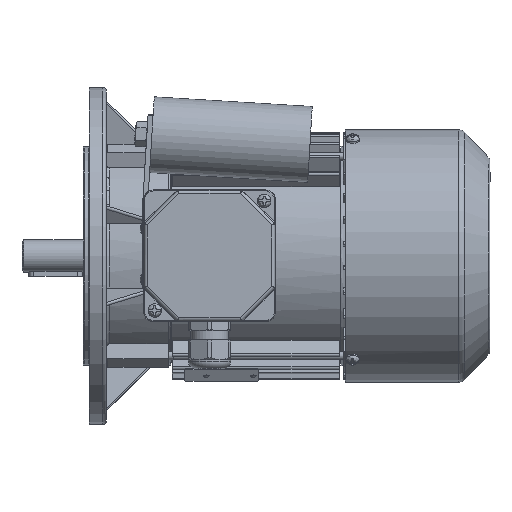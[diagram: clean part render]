
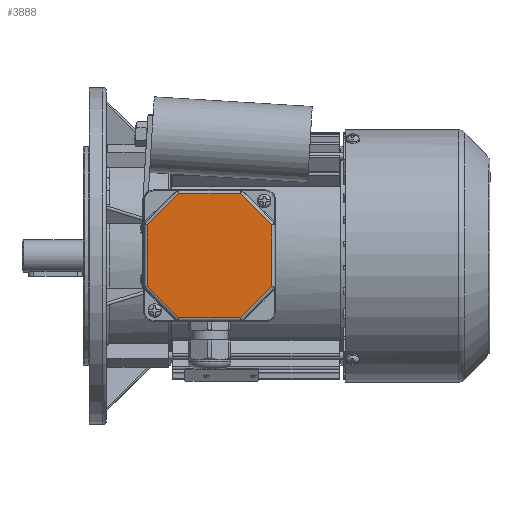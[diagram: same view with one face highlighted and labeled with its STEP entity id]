
A CAD part, top view. The second image highlights one B-rep face of the part: STEP entity #3888.
In plain terms, the highlighted planar face has unit normal (0, 0, 1).
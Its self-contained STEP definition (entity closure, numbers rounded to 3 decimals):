
#3888 = ADVANCED_FACE( '', ( #9288 ), #9289, .T. );
#9288 = FACE_OUTER_BOUND( '', #21138, .T. );
#9289 = PLANE( '', #21139 );
#21138 = EDGE_LOOP( '', ( #43950, #43951, #43952, #43953, #43954, #43955, #43956, #43957 ) );
#21139 = AXIS2_PLACEMENT_3D( '', #43958, #43959, #43960 );
#43950 = ORIENTED_EDGE( '', *, *, #64317, .T. );
#43951 = ORIENTED_EDGE( '', *, *, #64318, .T. );
#43952 = ORIENTED_EDGE( '', *, *, #64319, .T. );
#43953 = ORIENTED_EDGE( '', *, *, #63527, .T. );
#43954 = ORIENTED_EDGE( '', *, *, #64320, .T. );
#43955 = ORIENTED_EDGE( '', *, *, #64321, .T. );
#43956 = ORIENTED_EDGE( '', *, *, #64322, .T. );
#43957 = ORIENTED_EDGE( '', *, *, #64323, .T. );
#43958 = CARTESIAN_POINT( '', ( -39., 39., 12. ) );
#43959 = DIRECTION( '', ( 0., 0., 1. ) );
#43960 = DIRECTION( '', ( 1., 0., 0. ) );
#63527 = EDGE_CURVE( '', #73063, #73064, #73065, .T. );
#64317 = EDGE_CURVE( '', #72914, #72036, #74421, .F. );
#64318 = EDGE_CURVE( '', #72036, #72395, #74422, .T. );
#64319 = EDGE_CURVE( '', #72395, #73063, #74423, .F. );
#64320 = EDGE_CURVE( '', #73064, #74424, #74425, .F. );
#64321 = EDGE_CURVE( '', #74424, #74426, #74427, .T. );
#64322 = EDGE_CURVE( '', #74426, #71897, #74428, .F. );
#64323 = EDGE_CURVE( '', #71897, #72914, #74429, .T. );
#71897 = VERTEX_POINT( '', #85542 );
#72036 = VERTEX_POINT( '', #86036 );
#72395 = VERTEX_POINT( '', #87012 );
#72914 = VERTEX_POINT( '', #88843 );
#73063 = VERTEX_POINT( '', #89075 );
#73064 = VERTEX_POINT( '', #89076 );
#73065 = LINE( '', #89077, #89078 );
#74421 = LINE( '', #92783, #92784 );
#74422 = LINE( '', #92785, #92786 );
#74423 = LINE( '', #92787, #92788 );
#74424 = VERTEX_POINT( '', #92789 );
#74425 = LINE( '', #92790, #92791 );
#74426 = VERTEX_POINT( '', #92792 );
#74427 = LINE( '', #92793, #92794 );
#74428 = LINE( '', #92795, #92796 );
#74429 = LINE( '', #92797, #92798 );
#85542 = CARTESIAN_POINT( '', ( 18.255, -36.825, 12. ) );
#86036 = CARTESIAN_POINT( '', ( 36.825, 18.255, 12. ) );
#87012 = CARTESIAN_POINT( '', ( 18.255, 36.825, 12. ) );
#88843 = CARTESIAN_POINT( '', ( 36.825, -18.255, 12. ) );
#89075 = CARTESIAN_POINT( '', ( -18.255, 36.825, 12. ) );
#89076 = CARTESIAN_POINT( '', ( -36.825, 18.255, 12. ) );
#89077 = CARTESIAN_POINT( '', ( -37.401, 17.679, 12. ) );
#89078 = VECTOR( '', #119111, 1000. );
#92783 = CARTESIAN_POINT( '', ( 36.825, 19.069, 12. ) );
#92784 = VECTOR( '', #120044, 1000. );
#92785 = CARTESIAN_POINT( '', ( 17.679, 37.401, 12. ) );
#92786 = VECTOR( '', #120045, 1000. );
#92787 = CARTESIAN_POINT( '', ( -19.069, 36.825, 12. ) );
#92788 = VECTOR( '', #120046, 1000. );
#92789 = CARTESIAN_POINT( '', ( -36.825, -18.255, 12. ) );
#92790 = CARTESIAN_POINT( '', ( -36.825, -19.069, 12. ) );
#92791 = VECTOR( '', #120047, 1000. );
#92792 = CARTESIAN_POINT( '', ( -18.255, -36.825, 12. ) );
#92793 = CARTESIAN_POINT( '', ( -17.679, -37.401, 12. ) );
#92794 = VECTOR( '', #120048, 1000. );
#92795 = CARTESIAN_POINT( '', ( 19.069, -36.825, 12. ) );
#92796 = VECTOR( '', #120049, 1000. );
#92797 = CARTESIAN_POINT( '', ( 37.401, -17.679, 12. ) );
#92798 = VECTOR( '', #120050, 1000. );
#119111 = DIRECTION( '', ( -0.707, -0.707, 0. ) );
#120044 = DIRECTION( '', ( 0., -1., 0. ) );
#120045 = DIRECTION( '', ( -0.707, 0.707, 0. ) );
#120046 = DIRECTION( '', ( 1., 0., 0. ) );
#120047 = DIRECTION( '', ( 0., 1., 0. ) );
#120048 = DIRECTION( '', ( 0.707, -0.707, 0. ) );
#120049 = DIRECTION( '', ( -1., 0., 0. ) );
#120050 = DIRECTION( '', ( 0.707, 0.707, 0. ) );
